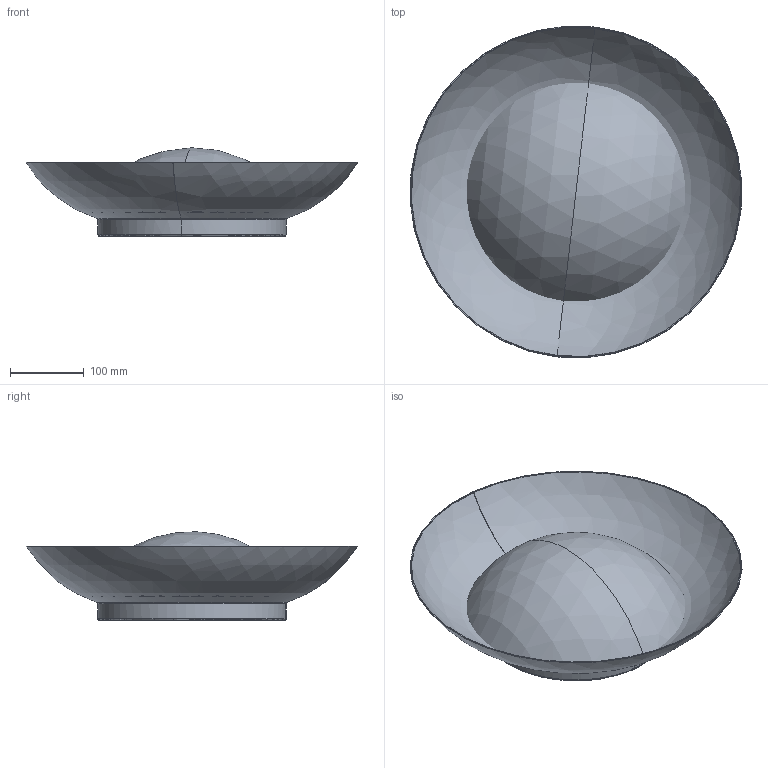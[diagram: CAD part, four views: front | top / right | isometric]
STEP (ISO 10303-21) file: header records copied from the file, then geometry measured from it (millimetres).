
FILE_DESCRIPTION(/* description */ (''),/* implementation_level */ '2;1');
FILE_NAME(/* name */ 'C:\Users\Franco Sartori E\Documents\FARO\DUPLICADO\Modelos\01_Digitalizados\2_Pendiente 2D\1_SIDE\03_Publicación\62145.stp',/* time_stamp */ '2020-11-12T11:04:31+01:00',/* author */ ('Franco Sartori E'),/* organization */ (''),/* preprocessor_version */ 'ST-DEVELOPER v18.1',/* originating_system */ 'AutoCAD Mechanical',/* authorisation */ '');
FILE_SCHEMA (('AUTOMOTIVE_DESIGN { 1 0 10303 214 3 1 1 }'));
Length unit declared in the file: millimetre
Products named in the file (2): Product; 62144_62145_62146_62147_lamp - SIDE Lamp-471358-_3D_
Assembly tree (1 placements, depth 2):
  Product
    62144_62145_62146_62147_lamp - SIDE Lamp-471358-_3D_
Bounding box: 449.21 x 449.21 x 119.88 mm (x, y, z)
Volume: 597815.6 mm3; surface area: 996046.6 mm2
Topology: 3 solids, 3 shells, 48 faces, 110 edges, 64 vertices
Faces by surface type: cylinder 14, plane 12, torus 8, bspline 8, sphere 4, cone 2
Entity records: 2465 total; most frequent: CARTESIAN_POINT 1365, ORIENTED_EDGE 220, DIRECTION 218, EDGE_CURVE 110, AXIS2_PLACEMENT_3D 95, VERTEX_POINT 64, EDGE_LOOP 54, CIRCLE 52
